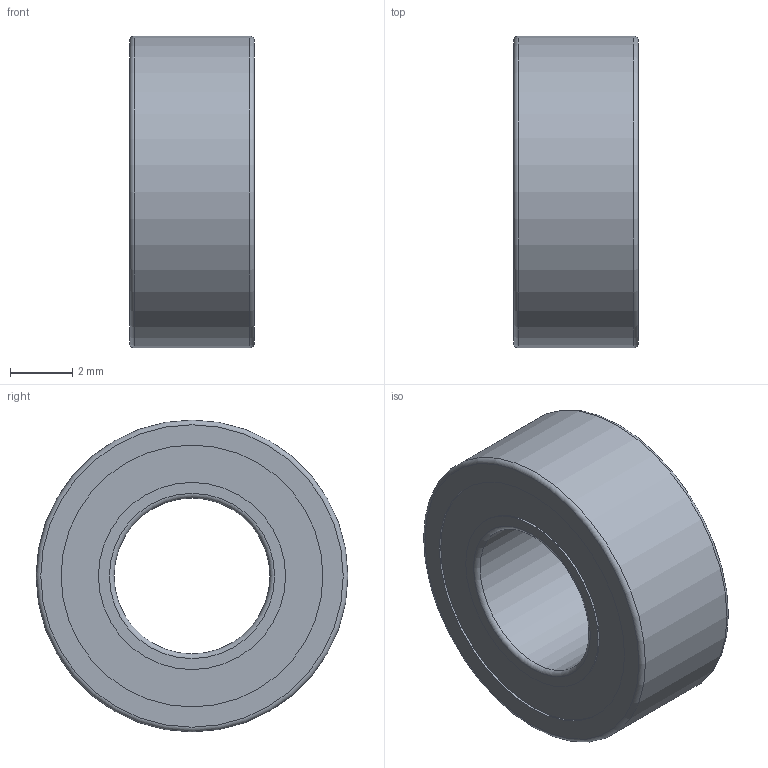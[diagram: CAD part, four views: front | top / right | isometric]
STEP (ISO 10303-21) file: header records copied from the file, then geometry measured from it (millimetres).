
FILE_DESCRIPTION(('FreeCAD Model'),'2;1');
FILE_NAME('Open CASCADE Shape Model','2021-04-30T15:07:52',(''),(''), 'Open CASCADE STEP processor 7.5','FreeCAD','Unknown');
FILE_SCHEMA(('AUTOMOTIVE_DESIGN { 1 0 10303 214 1 1 1 1 }'));
Length unit declared in the file: millimetre
Products named in the file (6): MR105ZZ; _MR105ZZ Outer Ring; _MR105ZZ Inner Ring; _MR105ZZ Shield1; _MR105ZZ Ball; _MR105ZZ Shield2
Assembly tree (16 placements, depth 2):
  MR105ZZ
    _MR105ZZ Outer Ring
    _MR105ZZ Inner Ring
    _MR105ZZ Shield1
    _MR105ZZ Ball  x12
    _MR105ZZ Shield2
Bounding box: 4 x 10 x 10 mm (x, y, z)
Volume: 169.1 mm3; surface area: 668.3 mm2
Topology: 16 solids, 16 shells, 38 faces, 78 edges, 50 vertices
Faces by surface type: sphere 12, cylinder 11, plane 10, torus 5
Full cylindrical faces by diameter (mm): 5 x1, 6 x3, 7.75 x2, 8.4 x4, 10 x1
Entity records: 1571 total; most frequent: CARTESIAN_POINT 299, DIRECTION 214, ORIENTED_EDGE 84, PCURVE 84, DEFINITIONAL_REPRESENTATION 84, AXIS2_PLACEMENT_3D 70, LINE 64, VECTOR 64
